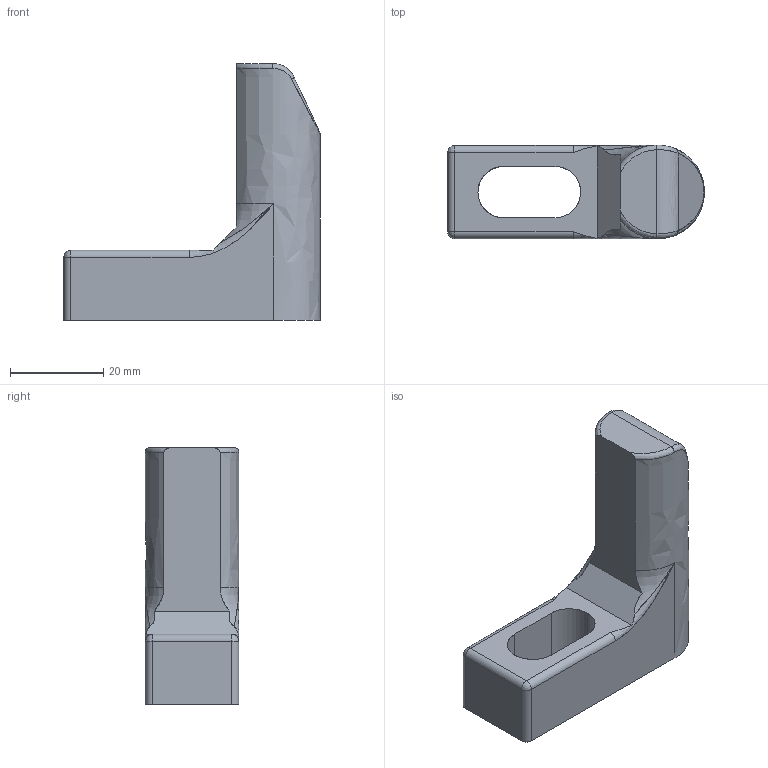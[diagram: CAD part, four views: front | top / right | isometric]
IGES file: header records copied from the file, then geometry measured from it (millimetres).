
Start section: START RECORD GO HERE.
Global section: file name: 704-1.igs; native system: DASSAULT SYSTEMES CATIA V5 R20 - www.3ds.com; preprocessor: CATIA Version 5 Release 20 ; author: Utente; organization: NB04-ASUS; date: 20201129.132646; units: millimetre
Bounding box: 55 x 20 x 55 mm (x, y, z)
Surface area: 6886.8 mm2 (no closed solid volume)
Topology: 0 solids, 0 shells, 35 faces, 178 edges, 174 vertices
Faces by surface type: revolution 18, plane 11, bspline 6
